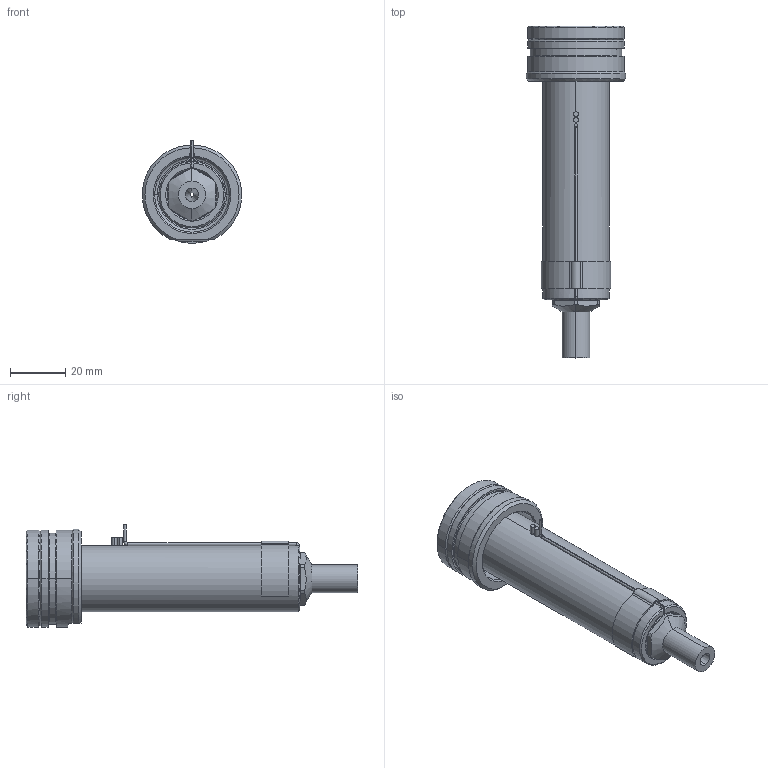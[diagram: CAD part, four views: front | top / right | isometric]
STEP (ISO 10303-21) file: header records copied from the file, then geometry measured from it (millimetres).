
FILE_DESCRIPTION((''),'2;1');
FILE_NAME('EO06_VG-ST_ESG_090_SW','2024-02-19T12:40:26',('sundharh'),(''),'CREO PARAMETRIC BY PTC INC, 2023154','CREO PARAMETRIC BY PTC INC, 2023154','');
FILE_SCHEMA(('CONFIG_CONTROL_DESIGN'));
Length unit declared in the file: millimetre
Products named in the file (1): EO06_VG-ST_ESG_090_SW
Bounding box: 35.93 x 120 x 37 mm (x, y, z)
Volume: 52421.7 mm3; surface area: 15823.8 mm2
Topology: 2 solids, 2 shells, 175 faces, 448 edges, 272 vertices
Faces by surface type: cylinder 68, plane 40, cone 34, torus 21, bspline 10, sphere 2
Entity records: 6083 total; most frequent: CARTESIAN_POINT 1790, DIRECTION 946, ORIENTED_EDGE 880, EDGE_CURVE 440, AXIS2_PLACEMENT_3D 395, VERTEX_POINT 272, CIRCLE 230, EDGE_LOOP 188
